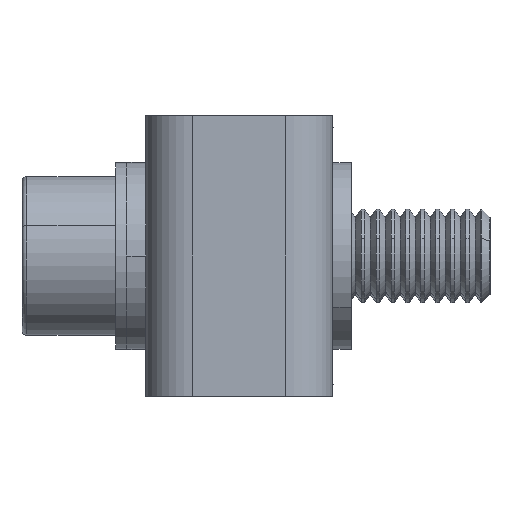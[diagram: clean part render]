
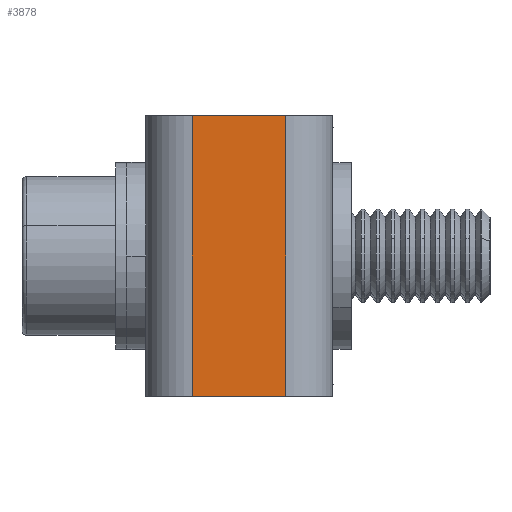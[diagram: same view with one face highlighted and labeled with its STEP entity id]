
A CAD part, left-side view. The second image highlights one B-rep face of the part: STEP entity #3878.
In plain terms, the highlighted planar face has unit normal (-1, 0, 0).
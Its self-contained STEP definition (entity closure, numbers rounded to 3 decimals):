
#16 = LINE ( 'NONE', #8251, #11692 ) ;
#1557 = VERTEX_POINT ( 'NONE', #2717 ) ;
#1675 = DIRECTION ( 'NONE',  ( 0., 0., -1. ) ) ;
#2135 = VERTEX_POINT ( 'NONE', #17316 ) ;
#2717 = CARTESIAN_POINT ( 'NONE',  ( -31.75, 6., -7.5 ) ) ;
#3354 = EDGE_CURVE ( 'NONE', #10734, #1557, #7632, .T. ) ;
#3878 = ADVANCED_FACE ( 'NONE', ( #10966 ), #4367, .F. ) ;
#4367 = PLANE ( 'NONE',  #8929 ) ;
#5059 = EDGE_LOOP ( 'NONE', ( #15795, #13652, #13152, #12062 ) ) ;
#5692 = DIRECTION ( 'NONE',  ( 1., 0., 0. ) ) ;
#6732 = VERTEX_POINT ( 'NONE', #11046 ) ;
#6739 = EDGE_CURVE ( 'NONE', #1557, #6732, #13732, .T. ) ;
#7632 = LINE ( 'NONE', #16090, #16890 ) ;
#7699 = VECTOR ( 'NONE', #8621, 1000. ) ;
#8251 = CARTESIAN_POINT ( 'NONE',  ( -31.75, -1.5, 7.5 ) ) ;
#8621 = DIRECTION ( 'NONE',  ( 0., 0., -1. ) ) ;
#8929 = AXIS2_PLACEMENT_3D ( 'NONE', #12399, #5692, #1675 ) ;
#9042 = CARTESIAN_POINT ( 'NONE',  ( -31.75, 6., 7.5 ) ) ;
#10654 = DIRECTION ( 'NONE',  ( 0., 0., -1. ) ) ;
#10713 = VECTOR ( 'NONE', #12203, 1000. ) ;
#10734 = VERTEX_POINT ( 'NONE', #9042 ) ;
#10954 = CARTESIAN_POINT ( 'NONE',  ( -31.75, -1.5, -7.5 ) ) ;
#10966 = FACE_OUTER_BOUND ( 'NONE', #5059, .T. ) ;
#11022 = DIRECTION ( 'NONE',  ( 0., -1., 0. ) ) ;
#11046 = CARTESIAN_POINT ( 'NONE',  ( -31.75, 1., -7.5 ) ) ;
#11692 = VECTOR ( 'NONE', #11022, 1000. ) ;
#12062 = ORIENTED_EDGE ( 'NONE', *, *, #12990, .F. ) ;
#12203 = DIRECTION ( 'NONE',  ( 0., -1., 0. ) ) ;
#12399 = CARTESIAN_POINT ( 'NONE',  ( -31.75, -1.5, 7.5 ) ) ;
#12739 = EDGE_CURVE ( 'NONE', #2135, #6732, #15495, .T. ) ;
#12990 = EDGE_CURVE ( 'NONE', #10734, #2135, #16, .T. ) ;
#13152 = ORIENTED_EDGE ( 'NONE', *, *, #12739, .F. ) ;
#13652 = ORIENTED_EDGE ( 'NONE', *, *, #6739, .T. ) ;
#13732 = LINE ( 'NONE', #10954, #10713 ) ;
#15410 = CARTESIAN_POINT ( 'NONE',  ( -31.75, 1., 7.5 ) ) ;
#15495 = LINE ( 'NONE', #15410, #7699 ) ;
#15795 = ORIENTED_EDGE ( 'NONE', *, *, #3354, .T. ) ;
#16090 = CARTESIAN_POINT ( 'NONE',  ( -31.75, 6., 7.5 ) ) ;
#16890 = VECTOR ( 'NONE', #10654, 1000. ) ;
#17316 = CARTESIAN_POINT ( 'NONE',  ( -31.75, 1., 7.5 ) ) ;
